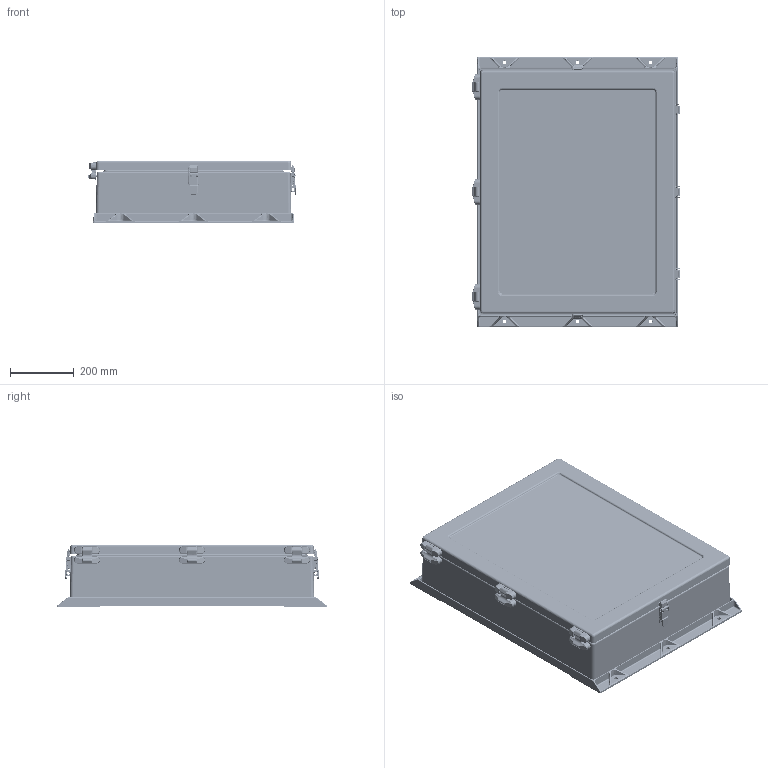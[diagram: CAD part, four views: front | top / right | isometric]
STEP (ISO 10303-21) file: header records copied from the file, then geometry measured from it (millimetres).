
FILE_DESCRIPTION (( 'STEP AP203' ), '1' );
FILE_NAME ('a30h2406gqrlp.STEP', '2012-03-22T14:33:04', ( 'Hoffman User' ), ( 'Hoffman Enclosures' ), 'SwSTEP 2.0', 'SolidWorks 2010', '' );
FILE_SCHEMA (( 'CONFIG_CONTROL_DESIGN' ));
Products named in the file (22): a30h2406gqrlp; 87926962; 87935466_87935456; 87926958; 87949219; 87926983; 87949254; 87954688_87954688; 99416061_FLEX; 24352001; 87759496_87759496 DOOR CLOSED; 22293001; 87955618; 22292001; 87955597; 87955576; 87951276_Closed angled bail; 87951273_87951273; 87951274_87951274; 14241007_14241007; 87949197_87949197; 87949198_87949198
Assembly tree (40 placements, depth 4):
  a30h2406gqrlp
    87926962
      87926958
      87935466_87935456
    87759496_87759496 DOOR CLOSED  x3
      22292001
        87955597
        87955576  x2
      14241007_14241007
      22293001
        87955576  x2
        87955618
    87951276_Closed angled bail  x5
      14241007_14241007
      87951273_87951273
      87949197_87949197
      87951274_87951274
    87954688_87954688  x4
    99416061_FLEX
      24352001
    87949219
      87926983
      87949254
    87949198_87949198  x5
Bounding box: 651.85 x 843.28 x 197.1 mm (x, y, z)
Volume: 7461054.6 mm3; surface area: 3855536.1 mm2
Topology: 63 solids, 63 shells, 8958 faces, 22111 edges, 13221 vertices
Faces by surface type: cylinder 2552, bspline 2413, plane 2144, torus 1015, cone 477, sphere 357
Entity records: 123501 total; most frequent: CARTESIAN_POINT 52677, ORIENTED_EDGE 15546, DIRECTION 12353, EDGE_CURVE 7773, VERTEX_POINT 4801, AXIS2_PLACEMENT_3D 4291, VECTOR 3771, LINE 3771
